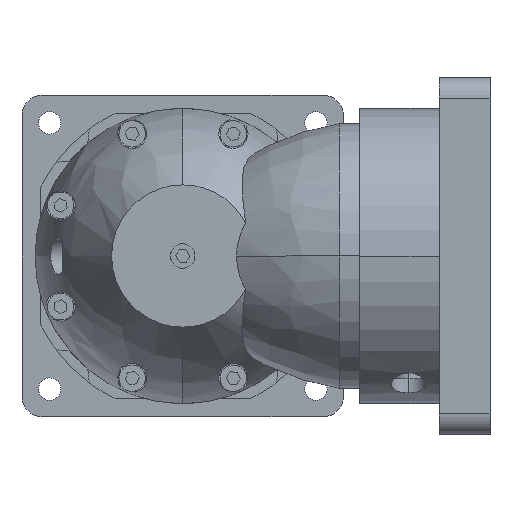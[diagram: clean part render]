
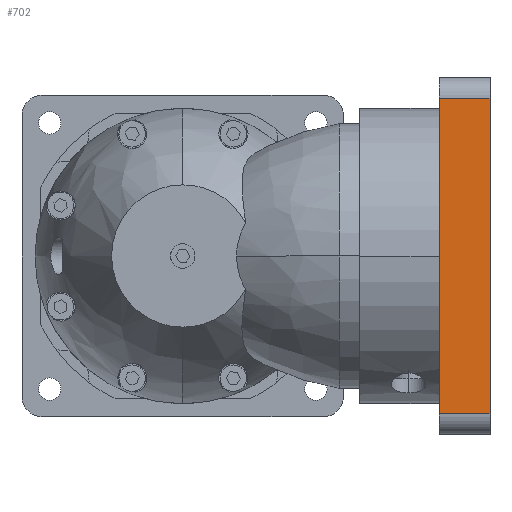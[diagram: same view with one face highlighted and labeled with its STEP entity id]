
A CAD part, left-side view. The second image highlights one B-rep face of the part: STEP entity #702.
In plain terms, the highlighted planar face has unit normal (-1, 0, 0).
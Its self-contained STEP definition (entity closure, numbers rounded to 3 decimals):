
#113 = EDGE_CURVE ( 'NONE', #7514, #6591, #8116, .T. ) ;
#244 = FACE_OUTER_BOUND ( 'NONE', #8629, .T. ) ;
#490 = ORIENTED_EDGE ( 'NONE', *, *, #113, .F. ) ;
#702 = ADVANCED_FACE ( 'NONE', ( #244 ), #13456, .F. ) ;
#1163 = EDGE_CURVE ( 'NONE', #1278, #6992, #5782, .T. ) ;
#1278 = VERTEX_POINT ( 'NONE', #9330 ) ;
#1675 = CARTESIAN_POINT ( 'NONE',  ( -87.5, -126., 77.5 ) ) ;
#2544 = VECTOR ( 'NONE', #11320, 1000. ) ;
#3273 = CARTESIAN_POINT ( 'NONE',  ( -87.5, -151., -77.5 ) ) ;
#3771 = CARTESIAN_POINT ( 'NONE',  ( -87.5, -151., 77.5 ) ) ;
#4073 = EDGE_CURVE ( 'NONE', #6992, #7514, #10871, .T. ) ;
#4368 = CARTESIAN_POINT ( 'NONE',  ( -87.5, -151., -77.5 ) ) ;
#4995 = VECTOR ( 'NONE', #8897, 1000. ) ;
#5268 = DIRECTION ( 'NONE',  ( 1., 0., 0. ) ) ;
#5782 = LINE ( 'NONE', #6081, #2544 ) ;
#6081 = CARTESIAN_POINT ( 'NONE',  ( -87.5, -151., 77.5 ) ) ;
#6591 = VERTEX_POINT ( 'NONE', #8454 ) ;
#6642 = VECTOR ( 'NONE', #8535, 1000. ) ;
#6766 = ORIENTED_EDGE ( 'NONE', *, *, #4073, .F. ) ;
#6992 = VERTEX_POINT ( 'NONE', #3771 ) ;
#7514 = VERTEX_POINT ( 'NONE', #3273 ) ;
#7793 = DIRECTION ( 'NONE',  ( 0., 0., 1. ) ) ;
#7813 = EDGE_CURVE ( 'NONE', #6591, #1278, #12555, .T. ) ;
#8116 = LINE ( 'NONE', #4368, #6642 ) ;
#8454 = CARTESIAN_POINT ( 'NONE',  ( -87.5, -126., -77.5 ) ) ;
#8535 = DIRECTION ( 'NONE',  ( 0., 1., 0. ) ) ;
#8629 = EDGE_LOOP ( 'NONE', ( #490, #6766, #9501, #11844 ) ) ;
#8897 = DIRECTION ( 'NONE',  ( 0., 0., -1. ) ) ;
#9330 = CARTESIAN_POINT ( 'NONE',  ( -87.5, -126., 77.5 ) ) ;
#9501 = ORIENTED_EDGE ( 'NONE', *, *, #1163, .F. ) ;
#9853 = CARTESIAN_POINT ( 'NONE',  ( -87.5, -151., 77.5 ) ) ;
#10473 = CARTESIAN_POINT ( 'NONE',  ( -87.5, -151., 77.5 ) ) ;
#10871 = LINE ( 'NONE', #9853, #4995 ) ;
#11230 = VECTOR ( 'NONE', #7793, 1000. ) ;
#11320 = DIRECTION ( 'NONE',  ( 0., -1., 0. ) ) ;
#11844 = ORIENTED_EDGE ( 'NONE', *, *, #7813, .F. ) ;
#12555 = LINE ( 'NONE', #1675, #11230 ) ;
#12590 = DIRECTION ( 'NONE',  ( 0., 1., 0. ) ) ;
#13456 = PLANE ( 'NONE',  #13491 ) ;
#13491 = AXIS2_PLACEMENT_3D ( 'NONE', #10473, #5268, #12590 ) ;
